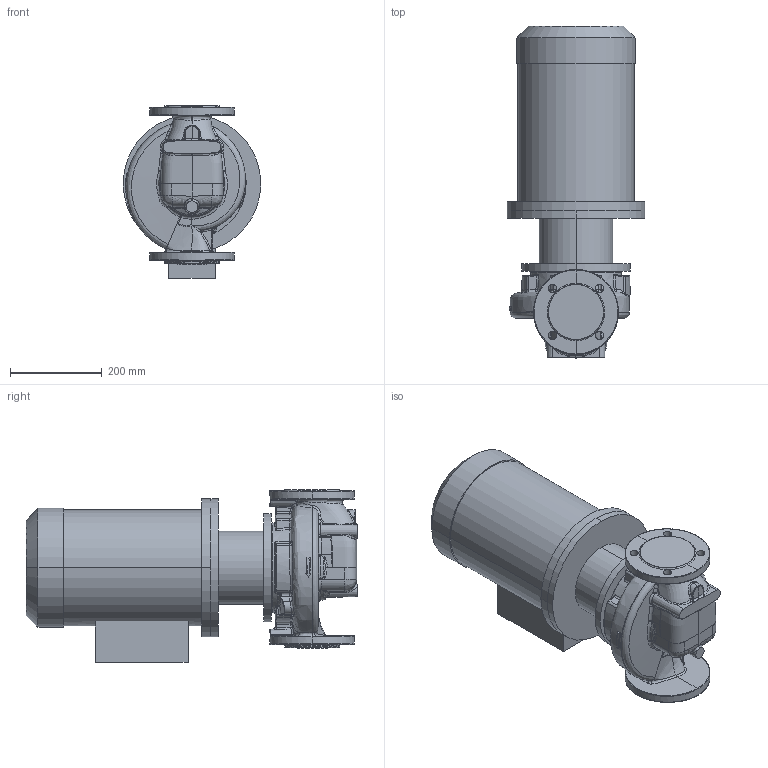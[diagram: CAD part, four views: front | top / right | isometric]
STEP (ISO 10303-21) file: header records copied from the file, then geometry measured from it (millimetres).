
FILE_DESCRIPTION (( 'STEP AP214' ), '1' );
FILE_NAME ('KRL 65-160-2-7,5.STEP', '2026-03-23T08:06:57', ( '' ), ( '' ), 'SwSTEP 2.0', 'SolidWorks 2016', '' );
FILE_SCHEMA (( 'AUTOMOTIVE_DESIGN' ));
Length unit declared in the file: millimetre
Products named in the file (1): KRL 65-160-2-7,5
Bounding box: 300 x 723.3 x 376 mm (x, y, z)
Volume: 34477077.4 mm3; surface area: 1216090.9 mm2
Topology: 4 solids, 4 shells, 642 faces, 1526 edges, 886 vertices
Faces by surface type: bspline 357, cylinder 106, plane 88, sphere 42, cone 31, torus 18
Entity records: 67941 total; most frequent: CARTESIAN_POINT 49083, ORIENTED_EDGE 3008, DIRECTION 1705, EDGE_CURVE 1504, VERTEX_POINT 886, AXIS2_PLACEMENT_3D 752, B_SPLINE_CURVE_WITH_KNOTS 711, EDGE_LOOP 666
